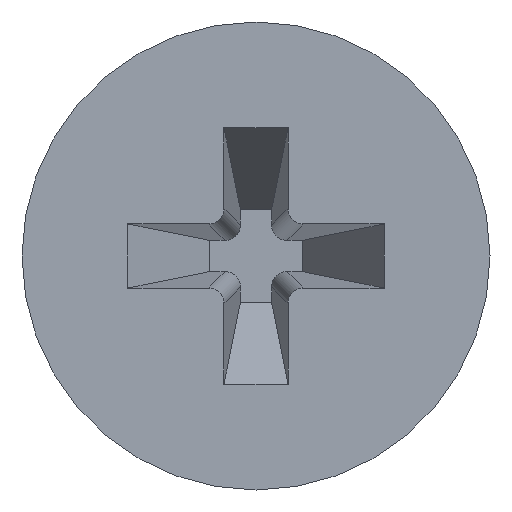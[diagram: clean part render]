
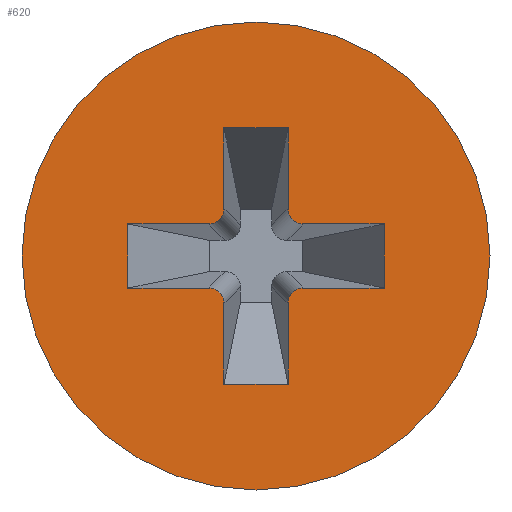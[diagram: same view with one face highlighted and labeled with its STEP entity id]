
A CAD part, left-side view. The second image highlights one B-rep face of the part: STEP entity #620.
In plain terms, the highlighted planar face has unit normal (-1, 0, 0).
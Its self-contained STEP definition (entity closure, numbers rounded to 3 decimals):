
#2 = LINE ( 'NONE', #226, #629 ) ;
#5 = CARTESIAN_POINT ( 'NONE',  ( 0., 0.575, 0.575 ) ) ;
#7 = ORIENTED_EDGE ( 'NONE', *, *, #395, .F. ) ;
#8 = EDGE_CURVE ( 'NONE', #65, #412, #18, .T. ) ;
#13 = DIRECTION ( 'NONE',  ( 0., 0., -1. ) ) ;
#18 = LINE ( 'NONE', #662, #367 ) ;
#27 = DIRECTION ( 'NONE',  ( 0., 0., -1. ) ) ;
#30 = VERTEX_POINT ( 'NONE', #434 ) ;
#32 = DIRECTION ( 'NONE',  ( 0., 1., 0. ) ) ;
#44 = LINE ( 'NONE', #265, #432 ) ;
#60 = EDGE_CURVE ( 'NONE', #440, #30, #131, .T. ) ;
#63 = CARTESIAN_POINT ( 'NONE',  ( 0., 0., 0. ) ) ;
#65 = VERTEX_POINT ( 'NONE', #204 ) ;
#76 = AXIS2_PLACEMENT_3D ( 'NONE', #117, #699, #525 ) ;
#78 = VERTEX_POINT ( 'NONE', #672 ) ;
#89 = ORIENTED_EDGE ( 'NONE', *, *, #710, .F. ) ;
#93 = ORIENTED_EDGE ( 'NONE', *, *, #379, .F. ) ;
#94 = DIRECTION ( 'NONE',  ( 0., 0., -1. ) ) ;
#96 = VERTEX_POINT ( 'NONE', #439 ) ;
#98 = VECTOR ( 'NONE', #94, 1000. ) ;
#102 = VERTEX_POINT ( 'NONE', #510 ) ;
#105 = DIRECTION ( 'NONE',  ( 0., -1., 0. ) ) ;
#107 = ORIENTED_EDGE ( 'NONE', *, *, #8, .F. ) ;
#114 = CIRCLE ( 'NONE', #668, 0.275 ) ;
#117 = CARTESIAN_POINT ( 'NONE',  ( 0., 0.85, 0.85 ) ) ;
#118 = LINE ( 'NONE', #5, #238 ) ;
#122 = ORIENTED_EDGE ( 'NONE', *, *, #143, .F. ) ;
#130 = CARTESIAN_POINT ( 'NONE',  ( 0., 0.575, -0.85 ) ) ;
#131 = LINE ( 'NONE', #365, #596 ) ;
#142 = CARTESIAN_POINT ( 'NONE',  ( 0., -0.85, 0.575 ) ) ;
#143 = EDGE_CURVE ( 'NONE', #588, #65, #741, .T. ) ;
#147 = CARTESIAN_POINT ( 'NONE',  ( 0., -2.3, -0.575 ) ) ;
#148 = DIRECTION ( 'NONE',  ( 0., -1., 0. ) ) ;
#155 = CARTESIAN_POINT ( 'NONE',  ( 0., 0.575, 2.3 ) ) ;
#156 = CARTESIAN_POINT ( 'NONE',  ( 0., 0.575, -0.575 ) ) ;
#167 = CARTESIAN_POINT ( 'NONE',  ( 0., 2.3, -0.575 ) ) ;
#168 = ORIENTED_EDGE ( 'NONE', *, *, #732, .F. ) ;
#177 = CARTESIAN_POINT ( 'NONE',  ( 0., -0.575, 0.85 ) ) ;
#194 = EDGE_CURVE ( 'NONE', #548, #440, #680, .T. ) ;
#204 = CARTESIAN_POINT ( 'NONE',  ( 0., 2.3, 0.575 ) ) ;
#206 = DIRECTION ( 'NONE',  ( 0., 0., -1. ) ) ;
#207 = LINE ( 'NONE', #442, #456 ) ;
#217 = VERTEX_POINT ( 'NONE', #142 ) ;
#223 = VECTOR ( 'NONE', #643, 1000. ) ;
#224 = DIRECTION ( 'NONE',  ( 0., 0., 1. ) ) ;
#226 = CARTESIAN_POINT ( 'NONE',  ( 0., -0.575, -0.575 ) ) ;
#238 = VECTOR ( 'NONE', #340, 1000. ) ;
#244 = EDGE_CURVE ( 'NONE', #78, #533, #207, .T. ) ;
#262 = CARTESIAN_POINT ( 'NONE',  ( 0., 0.85, -0.575 ) ) ;
#265 = CARTESIAN_POINT ( 'NONE',  ( 0., -0.575, 0.575 ) ) ;
#267 = EDGE_CURVE ( 'NONE', #217, #280, #307, .T. ) ;
#279 = CARTESIAN_POINT ( 'NONE',  ( 0., 2.3, -0.575 ) ) ;
#280 = VERTEX_POINT ( 'NONE', #177 ) ;
#290 = CARTESIAN_POINT ( 'NONE',  ( 0., 0., 0. ) ) ;
#300 = EDGE_CURVE ( 'NONE', #30, #217, #397, .T. ) ;
#306 = EDGE_CURVE ( 'NONE', #533, #623, #2, .T. ) ;
#307 = CIRCLE ( 'NONE', #358, 0.275 ) ;
#308 = ORIENTED_EDGE ( 'NONE', *, *, #194, .F. ) ;
#315 = CARTESIAN_POINT ( 'NONE',  ( 0., -0.575, 2.3 ) ) ;
#321 = CARTESIAN_POINT ( 'NONE',  ( 0., 0.85, -0.85 ) ) ;
#340 = DIRECTION ( 'NONE',  ( 0., 0., -1. ) ) ;
#345 = ORIENTED_EDGE ( 'NONE', *, *, #436, .F. ) ;
#347 = CARTESIAN_POINT ( 'NONE',  ( 0., -0.85, -0.575 ) ) ;
#353 = ORIENTED_EDGE ( 'NONE', *, *, #244, .F. ) ;
#358 = AXIS2_PLACEMENT_3D ( 'NONE', #705, #753, #587 ) ;
#365 = CARTESIAN_POINT ( 'NONE',  ( 0., -2.3, -0.575 ) ) ;
#367 = VECTOR ( 'NONE', #27, 1000. ) ;
#368 = AXIS2_PLACEMENT_3D ( 'NONE', #63, #478, #224 ) ;
#378 = ORIENTED_EDGE ( 'NONE', *, *, #487, .F. ) ;
#379 = EDGE_CURVE ( 'NONE', #412, #430, #592, .T. ) ;
#388 = EDGE_CURVE ( 'NONE', #755, #755, #408, .T. ) ;
#395 = EDGE_CURVE ( 'NONE', #102, #96, #118, .T. ) ;
#397 = LINE ( 'NONE', #512, #223 ) ;
#408 = CIRCLE ( 'NONE', #569, 4.2 ) ;
#410 = CIRCLE ( 'NONE', #76, 0.275 ) ;
#412 = VERTEX_POINT ( 'NONE', #279 ) ;
#419 = ORIENTED_EDGE ( 'NONE', *, *, #481, .F. ) ;
#421 = AXIS2_PLACEMENT_3D ( 'NONE', #541, #604, #13 ) ;
#430 = VERTEX_POINT ( 'NONE', #262 ) ;
#432 = VECTOR ( 'NONE', #505, 1000. ) ;
#434 = CARTESIAN_POINT ( 'NONE',  ( 0., -2.3, 0.575 ) ) ;
#436 = EDGE_CURVE ( 'NONE', #430, #681, #114, .T. ) ;
#439 = CARTESIAN_POINT ( 'NONE',  ( 0., 0.575, 0.85 ) ) ;
#440 = VERTEX_POINT ( 'NONE', #147 ) ;
#442 = CARTESIAN_POINT ( 'NONE',  ( 0., 0.575, -2.3 ) ) ;
#456 = VECTOR ( 'NONE', #148, 1000. ) ;
#457 = ORIENTED_EDGE ( 'NONE', *, *, #540, .F. ) ;
#460 = CARTESIAN_POINT ( 'NONE',  ( 0., -0.575, -0.85 ) ) ;
#461 = DIRECTION ( 'NONE',  ( 0., 0., 1. ) ) ;
#466 = DIRECTION ( 'NONE',  ( 0., 0., -1. ) ) ;
#478 = DIRECTION ( 'NONE',  ( -1., 0., 0. ) ) ;
#479 = ORIENTED_EDGE ( 'NONE', *, *, #306, .F. ) ;
#481 = EDGE_CURVE ( 'NONE', #280, #706, #44, .T. ) ;
#487 = EDGE_CURVE ( 'NONE', #681, #78, #625, .T. ) ;
#491 = ORIENTED_EDGE ( 'NONE', *, *, #388, .F. ) ;
#500 = DIRECTION ( 'NONE',  ( 1., 0., 0. ) ) ;
#504 = DIRECTION ( 'NONE',  ( 0., 1., 0. ) ) ;
#505 = DIRECTION ( 'NONE',  ( 0., 0., 1. ) ) ;
#507 = VECTOR ( 'NONE', #504, 1000. ) ;
#510 = CARTESIAN_POINT ( 'NONE',  ( 0., 0.575, 2.3 ) ) ;
#512 = CARTESIAN_POINT ( 'NONE',  ( 0., -0.575, 0.575 ) ) ;
#519 = EDGE_LOOP ( 'NONE', ( #457, #7, #168, #419, #742, #563, #746, #308, #89, #479, #353, #378, #345, #93, #107, #122 ) ) ;
#525 = DIRECTION ( 'NONE',  ( 0., 0., 1. ) ) ;
#533 = VERTEX_POINT ( 'NONE', #590 ) ;
#536 = FACE_OUTER_BOUND ( 'NONE', #754, .T. ) ;
#538 = PLANE ( 'NONE',  #368 ) ;
#540 = EDGE_CURVE ( 'NONE', #96, #588, #410, .T. ) ;
#541 = CARTESIAN_POINT ( 'NONE',  ( 0., -0.85, -0.85 ) ) ;
#548 = VERTEX_POINT ( 'NONE', #347 ) ;
#562 = CARTESIAN_POINT ( 'NONE',  ( 0., 2.3, 0.575 ) ) ;
#563 = ORIENTED_EDGE ( 'NONE', *, *, #300, .F. ) ;
#569 = AXIS2_PLACEMENT_3D ( 'NONE', #290, #757, #466 ) ;
#587 = DIRECTION ( 'NONE',  ( 0., 0., 1. ) ) ;
#588 = VERTEX_POINT ( 'NONE', #650 ) ;
#590 = CARTESIAN_POINT ( 'NONE',  ( 0., -0.575, -2.3 ) ) ;
#592 = LINE ( 'NONE', #167, #678 ) ;
#596 = VECTOR ( 'NONE', #605, 1000. ) ;
#604 = DIRECTION ( 'NONE',  ( 1., 0., 0. ) ) ;
#605 = DIRECTION ( 'NONE',  ( 0., 0., 1. ) ) ;
#606 = LINE ( 'NONE', #155, #507 ) ;
#618 = CIRCLE ( 'NONE', #421, 0.275 ) ;
#620 = ADVANCED_FACE ( 'NONE', ( #647, #536 ), #538, .T. ) ;
#623 = VERTEX_POINT ( 'NONE', #460 ) ;
#625 = LINE ( 'NONE', #156, #98 ) ;
#629 = VECTOR ( 'NONE', #461, 1000. ) ;
#643 = DIRECTION ( 'NONE',  ( 0., 1., 0. ) ) ;
#646 = CARTESIAN_POINT ( 'NONE',  ( 0., 0., -4.2 ) ) ;
#647 = FACE_BOUND ( 'NONE', #519, .T. ) ;
#650 = CARTESIAN_POINT ( 'NONE',  ( 0., 0.85, 0.575 ) ) ;
#655 = VECTOR ( 'NONE', #32, 1000. ) ;
#662 = CARTESIAN_POINT ( 'NONE',  ( 0., 2.3, -0.575 ) ) ;
#668 = AXIS2_PLACEMENT_3D ( 'NONE', #321, #500, #206 ) ;
#672 = CARTESIAN_POINT ( 'NONE',  ( 0., 0.575, -2.3 ) ) ;
#678 = VECTOR ( 'NONE', #105, 1000. ) ;
#680 = LINE ( 'NONE', #733, #752 ) ;
#681 = VERTEX_POINT ( 'NONE', #130 ) ;
#699 = DIRECTION ( 'NONE',  ( 1., 0., 0. ) ) ;
#705 = CARTESIAN_POINT ( 'NONE',  ( 0., -0.85, 0.85 ) ) ;
#706 = VERTEX_POINT ( 'NONE', #315 ) ;
#710 = EDGE_CURVE ( 'NONE', #623, #548, #618, .T. ) ;
#732 = EDGE_CURVE ( 'NONE', #706, #102, #606, .T. ) ;
#733 = CARTESIAN_POINT ( 'NONE',  ( 0., -0.575, -0.575 ) ) ;
#738 = DIRECTION ( 'NONE',  ( 0., -1., 0. ) ) ;
#741 = LINE ( 'NONE', #562, #655 ) ;
#742 = ORIENTED_EDGE ( 'NONE', *, *, #267, .F. ) ;
#746 = ORIENTED_EDGE ( 'NONE', *, *, #60, .F. ) ;
#752 = VECTOR ( 'NONE', #738, 1000. ) ;
#753 = DIRECTION ( 'NONE',  ( 1., 0., 0. ) ) ;
#754 = EDGE_LOOP ( 'NONE', ( #491 ) ) ;
#755 = VERTEX_POINT ( 'NONE', #646 ) ;
#757 = DIRECTION ( 'NONE',  ( 1., 0., 0. ) ) ;
